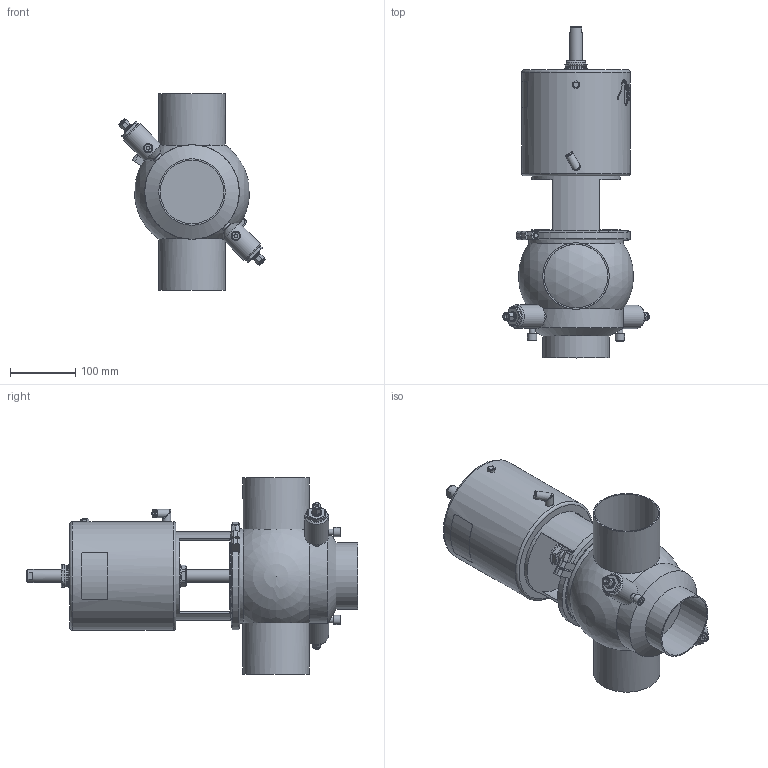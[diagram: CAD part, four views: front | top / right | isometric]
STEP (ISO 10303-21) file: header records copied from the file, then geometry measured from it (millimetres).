
FILE_DESCRIPTION (( 'STEP AP214' ), '1' );
FILE_NAME ('INNOVA D T W OD 4 T4 AS NC_10.246.16.0002.STEP', '2024-08-08T09:38:53', ( '' ), ( '' ), 'SwSTEP 2.0', 'SolidWorks 2023', '' );
FILE_SCHEMA (( 'AUTOMOTIVE_DESIGN' ));
Length unit declared in the file: millimetre
Products named in the file (5): 10.246.15.0002_OD 4"; 10.240.15.0010_DN 100; INNOVA D T W OD 4 T4 AS NC_10.246.16.0002; 10.240.15.0014_T4 AS P0; 10.240.15.0001_DN 100
Assembly tree (4 placements, depth 2):
  INNOVA D T W OD 4 T4 AS NC_10.246.16.0002
    10.246.15.0002_OD 4"
    10.240.15.0010_DN 100
    10.240.15.0014_T4 AS P0
    10.240.15.0001_DN 100
Bounding box: 224.29 x 507.5 x 300 mm (x, y, z)
Volume: 6960333.5 mm3; surface area: 516628.8 mm2
Topology: 4 solids, 4 shells, 425 faces, 1078 edges, 698 vertices
Faces by surface type: plane 225, cylinder 85, bspline 80, cone 27, sphere 4, torus 4
Full cylindrical faces by diameter (mm): 6 x4, 6.15 x1, 8 x3, 8.5 x1, 9 x2, 10 x2, 10.5 x1, 12 x4, 12.5 x3, 14 x4, 15 x2, 16 x1, 20 x2, 31 x1, 34.5 x2, 36 x2, 36.5 x1, 97.4 x3, 101.6 x3, 135 x1, 144.5 x2, 156.5 x2, 166 x1
Entity records: 23133 total; most frequent: CARTESIAN_POINT 12078, ORIENTED_EDGE 1944, DIRECTION 1621, EDGE_CURVE 972, VERTEX_POINT 671, AXIS2_PLACEMENT_3D 612, EDGE_LOOP 549, FACE_OUTER_BOUND 479
